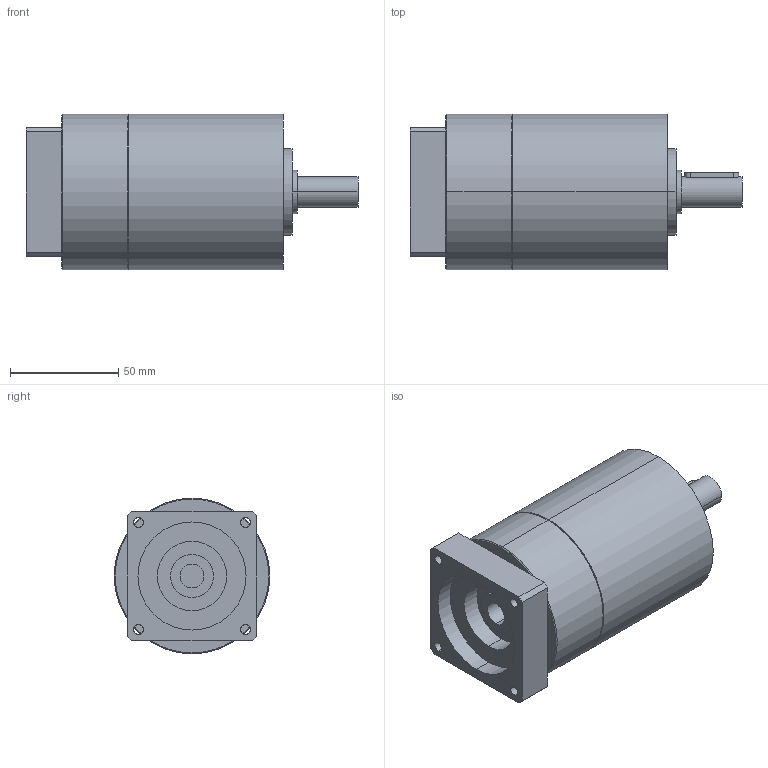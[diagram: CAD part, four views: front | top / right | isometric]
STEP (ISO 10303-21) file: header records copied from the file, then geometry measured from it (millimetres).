
FILE_DESCRIPTION(('CoCreate Modeling STEP Export'),'2;1');
FILE_NAME('GPT75_ig-9-12-16-20-25-28-35-40-50-70-100_14_B14T_11_P17.stp','2014-08-27T13:08:34',(''),(''),'CoCreate Modeling STEP processor for AP214 (Solid Model)','CoCreate Modeling 16.00C 25-Feb-2009 (C) Parametric Technology GmbH','');
FILE_SCHEMA(('AUTOMOTIVE_DESIGN { 1 0 10303 214 1 1 1 1 }'));
Length unit declared in the file: millimetre
Products named in the file (2): GPT75_ig-9-12-16-20-25-28-35-40-50-70-100_14_B14T_11_P17
Assembly tree (1 placements, depth 2):
  GPT75_ig-9-12-16-20-25-28-35-40-50-70-100_14_B14T_11_P17
    GPT75_ig-9-12-16-20-25-28-35-40-50-70-100_14_B14T_11_P17
Bounding box: 153.5 x 72 x 72 mm (x, y, z)
Volume: 460359.6 mm3; surface area: 42859.5 mm2
Topology: 1 solids, 1 shells, 80 faces, 198 edges, 129 vertices
Faces by surface type: cylinder 42, plane 34, cone 4
Entity records: 2353 total; most frequent: CARTESIAN_POINT 689, ORIENTED_EDGE 396, DIRECTION 276, EDGE_CURVE 198, VERTEX_POINT 129, AXIS2_PLACEMENT_3D 104, EDGE_LOOP 97, FACE_OUTER_BOUND 80
